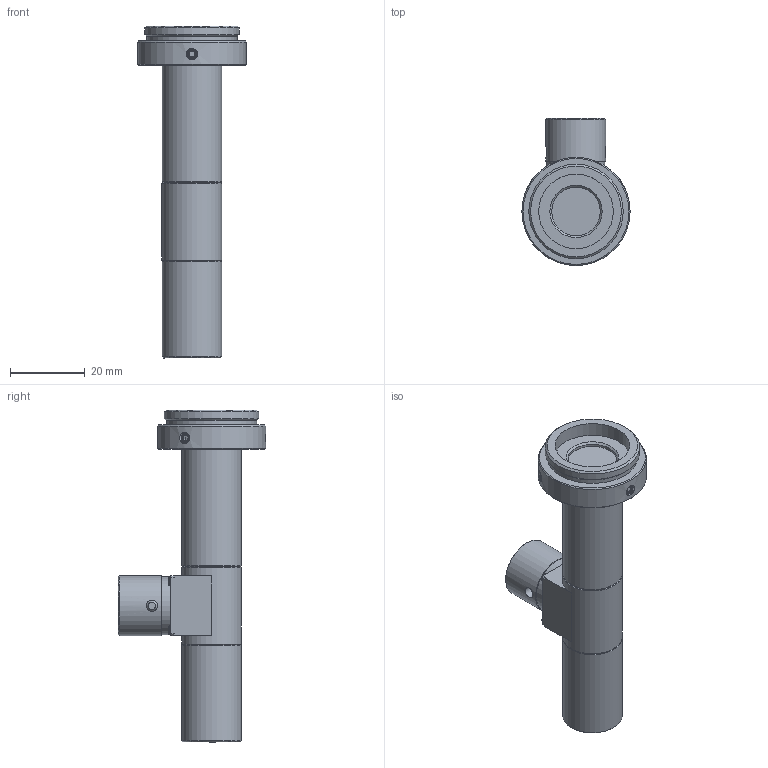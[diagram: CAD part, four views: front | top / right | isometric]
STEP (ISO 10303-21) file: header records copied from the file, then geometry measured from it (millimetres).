
FILE_DESCRIPTION(('STEP AP214'),'1');
FILE_NAME('RTK-4F-110.stp','2026-03-17T06:15:17',(' '),(' '),'Spatial InterOp 3D',' ',' ');
FILE_SCHEMA(('AUTOMOTIVE_DESIGN { 1 0 10303 214 1 1 1 1 }'));
Length unit declared in the file: metre
Products named in the file (2): RTK-4F-110; Component1
Assembly tree (1 placements, depth 2):
  RTK-4F-110
    Component1
Bounding box: 29 x 39.5 x 88.95 mm (x, y, z)
Volume: 14351.4 mm3; surface area: 12593 mm2
Topology: 1 solids, 13 shells, 388 faces, 918 edges, 588 vertices
Faces by surface type: plane 186, cone 109, cylinder 76, torus 8, sphere 6, bspline 3
Full cylindrical faces by diameter (mm): 1.7 x8, 1.8 x4, 2.5 x6, 3 x3, 6.5 x1, 8 x2, 9 x1, 10 x1, 12 x2, 12.7 x1, 13 x2, 13.4 x1, 13.5 x2, 13.7 x1, 13.9 x1, 14 x2, 14.2 x3, 14.7 x1, 15.5 x1, 16 x6, 20 x1, 24.12 x1, 25.32 x1, 29 x1
Entity records: 14181 total; most frequent: CARTESIAN_POINT 2756, DIRECTION 1792, ORIENTED_EDGE 1506, AXIS2_PLACEMENT_3D 760, EDGE_CURVE 753, EDGE_LOOP 549, VERTEX_POINT 538, FACE_OUTER_BOUND 451
